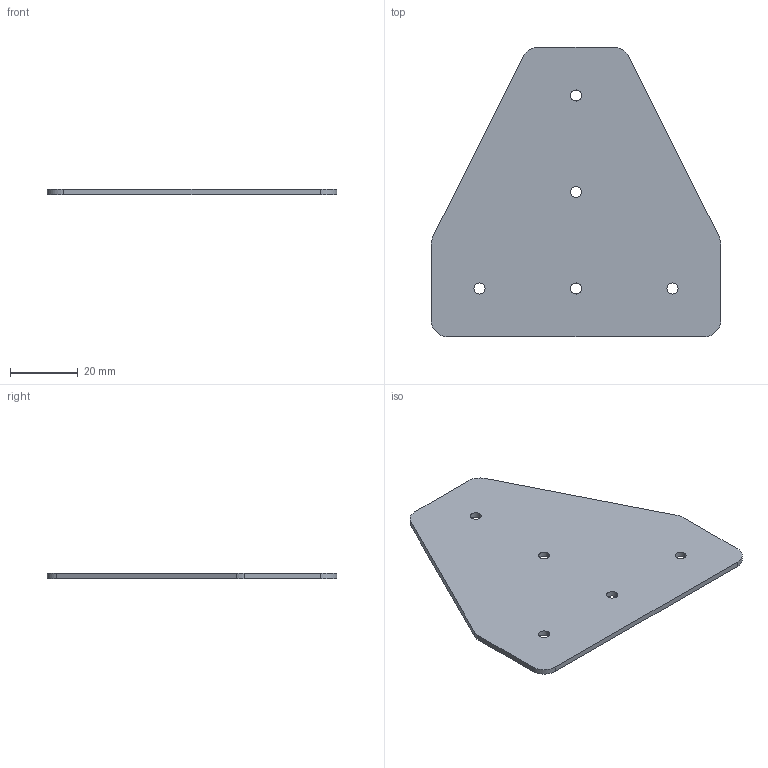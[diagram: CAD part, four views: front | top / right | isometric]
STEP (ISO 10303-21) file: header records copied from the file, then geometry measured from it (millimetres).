
FILE_DESCRIPTION (( 'STEP AP203' ), '1' );
FILE_NAME ('FDPGK-S_1-TEE.step', '2019-09-11T19:48:27', ( 'ydmin' ), ( '' ), 'SwSTEP 2.0', 'SolidWorks 2017', '' );
FILE_SCHEMA (( 'CONFIG_CONTROL_DESIGN' ));
Length unit declared in the file: inch
Products named in the file (1): FDPGK-S_1-TEE
Bounding box: 85.72 x 85.72 x 1.59 mm (x, y, z)
Volume: 8984.6 mm3; surface area: 11867.9 mm2
Topology: 1 solids, 1 shells, 24 faces, 66 edges, 44 vertices
Faces by surface type: cylinder 16, plane 8
Entity records: 881 total; most frequent: DIRECTION 148, CARTESIAN_POINT 135, ORIENTED_EDGE 132, EDGE_CURVE 66, AXIS2_PLACEMENT_3D 57, VERTEX_POINT 44, LINE 34, EDGE_LOOP 34
